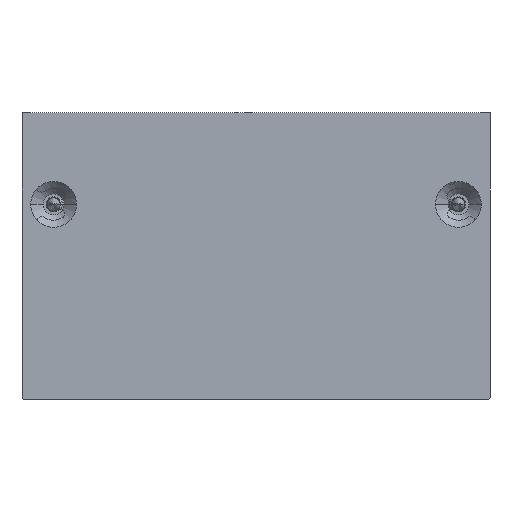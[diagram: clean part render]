
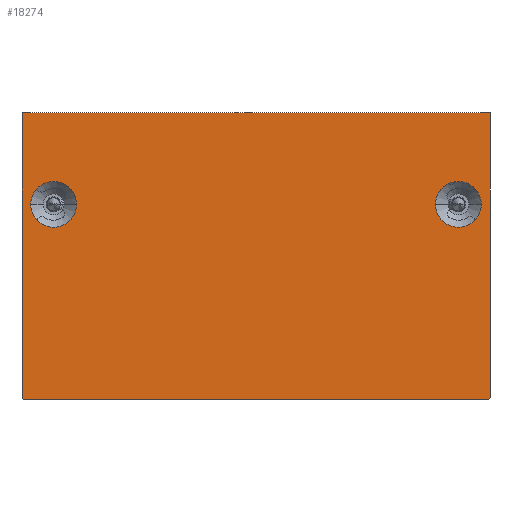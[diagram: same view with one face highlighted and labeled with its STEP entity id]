
A CAD part, front view. The second image highlights one B-rep face of the part: STEP entity #18274.
In plain terms, the highlighted planar face has unit normal (0, -1, 0).
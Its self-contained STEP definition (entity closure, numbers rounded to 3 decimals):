
#412 = ORIENTED_EDGE ( 'NONE', *, *, #14652, .T. ) ;
#533 = CIRCLE ( 'NONE', #6109, 2.75 ) ;
#747 = CARTESIAN_POINT ( 'NONE',  ( 212.149, -212.349, 34.4 ) ) ;
#848 = DIRECTION ( 'NONE',  ( 0., -1., 0. ) ) ;
#914 = FACE_BOUND ( 'NONE', #1367, .T. ) ;
#915 = EDGE_LOOP ( 'NONE', ( #8111, #1026 ) ) ;
#1026 = ORIENTED_EDGE ( 'NONE', *, *, #19201, .T. ) ;
#1199 = CARTESIAN_POINT ( 'NONE',  ( 213.198, -212.349, 23.4 ) ) ;
#1367 = EDGE_LOOP ( 'NONE', ( #20089, #19841 ) ) ;
#1636 = LINE ( 'NONE', #22933, #21381 ) ;
#1826 = CARTESIAN_POINT ( 'NONE',  ( 268.363, -212.349, 34.4 ) ) ;
#1956 = EDGE_CURVE ( 'NONE', #6447, #9885, #15163, .T. ) ;
#2032 = DIRECTION ( 'NONE',  ( 0., 0., 1. ) ) ;
#2135 = EDGE_CURVE ( 'NONE', #12756, #16285, #2504, .T. ) ;
#2291 = CARTESIAN_POINT ( 'NONE',  ( 267.315, -212.349, 23.4 ) ) ;
#2462 = DIRECTION ( 'NONE',  ( -1., 0., 0. ) ) ;
#2504 = CIRCLE ( 'NONE', #15917, 0.2 ) ;
#2564 = DIRECTION ( 'NONE',  ( 0., 1., 0. ) ) ;
#2654 = FACE_OUTER_BOUND ( 'NONE', #21247, .T. ) ;
#2755 = DIRECTION ( 'NONE',  ( 1., 0., 0. ) ) ;
#2794 = DIRECTION ( 'NONE',  ( 0., 0., -1. ) ) ;
#2952 = CIRCLE ( 'NONE', #17477, 2.75 ) ;
#3269 = DIRECTION ( 'NONE',  ( 1., 0., 0. ) ) ;
#3643 = ORIENTED_EDGE ( 'NONE', *, *, #19905, .T. ) ;
#3660 = VERTEX_POINT ( 'NONE', #18474 ) ;
#4226 = DIRECTION ( 'NONE',  ( 0., 1., 0. ) ) ;
#4402 = PLANE ( 'NONE',  #5358 ) ;
#4464 = VERTEX_POINT ( 'NONE', #747 ) ;
#4535 = CARTESIAN_POINT ( 'NONE',  ( 215.948, -212.349, 23.4 ) ) ;
#4853 = DIRECTION ( 'NONE',  ( 0., -1., 0. ) ) ;
#4996 = CARTESIAN_POINT ( 'NONE',  ( 268.163, -212.349, 0. ) ) ;
#5358 = AXIS2_PLACEMENT_3D ( 'NONE', #11760, #4853, #2755 ) ;
#6109 = AXIS2_PLACEMENT_3D ( 'NONE', #16563, #2564, #22122 ) ;
#6447 = VERTEX_POINT ( 'NONE', #1199 ) ;
#6465 = CIRCLE ( 'NONE', #18347, 2.75 ) ;
#6642 = EDGE_CURVE ( 'NONE', #9885, #6447, #2952, .T. ) ;
#6786 = DIRECTION ( 'NONE',  ( 0., 0., -1. ) ) ;
#6990 = DIRECTION ( 'NONE',  ( -1., 0., 0. ) ) ;
#7457 = CARTESIAN_POINT ( 'NONE',  ( 268.363, -212.349, 34.4 ) ) ;
#7952 = CARTESIAN_POINT ( 'NONE',  ( 215.948, -212.349, 23.4 ) ) ;
#8111 = ORIENTED_EDGE ( 'NONE', *, *, #13799, .T. ) ;
#9409 = ORIENTED_EDGE ( 'NONE', *, *, #10628, .T. ) ;
#9484 = CARTESIAN_POINT ( 'NONE',  ( 212.349, -212.349, 0. ) ) ;
#9834 = VECTOR ( 'NONE', #2032, 1000. ) ;
#9885 = VERTEX_POINT ( 'NONE', #16972 ) ;
#10345 = CARTESIAN_POINT ( 'NONE',  ( 261.815, -212.349, 23.4 ) ) ;
#10423 = VERTEX_POINT ( 'NONE', #9484 ) ;
#10628 = EDGE_CURVE ( 'NONE', #16285, #13618, #14620, .T. ) ;
#11109 = CARTESIAN_POINT ( 'NONE',  ( 268.163, -212.349, 0.2 ) ) ;
#11206 = EDGE_CURVE ( 'NONE', #10423, #12756, #19228, .T. ) ;
#11225 = DIRECTION ( 'NONE',  ( 0., 1., 0. ) ) ;
#11264 = ORIENTED_EDGE ( 'NONE', *, *, #11206, .T. ) ;
#11760 = CARTESIAN_POINT ( 'NONE',  ( 240.256, -212.349, 17.231 ) ) ;
#12687 = VERTEX_POINT ( 'NONE', #10345 ) ;
#12756 = VERTEX_POINT ( 'NONE', #14531 ) ;
#13427 = CARTESIAN_POINT ( 'NONE',  ( 268.363, -212.349, 0.2 ) ) ;
#13618 = VERTEX_POINT ( 'NONE', #7457 ) ;
#13799 = EDGE_CURVE ( 'NONE', #15667, #12687, #6465, .T. ) ;
#14109 = CARTESIAN_POINT ( 'NONE',  ( 212.349, -212.349, 0.2 ) ) ;
#14468 = ORIENTED_EDGE ( 'NONE', *, *, #2135, .T. ) ;
#14531 = CARTESIAN_POINT ( 'NONE',  ( 268.163, -212.349, 0. ) ) ;
#14620 = LINE ( 'NONE', #1826, #9834 ) ;
#14652 = EDGE_CURVE ( 'NONE', #4464, #3660, #22475, .T. ) ;
#14697 = DIRECTION ( 'NONE',  ( 1., 0., 0. ) ) ;
#15037 = DIRECTION ( 'NONE',  ( 0., 1., 0. ) ) ;
#15163 = CIRCLE ( 'NONE', #19621, 2.75 ) ;
#15667 = VERTEX_POINT ( 'NONE', #2291 ) ;
#15769 = VECTOR ( 'NONE', #2794, 1000. ) ;
#15917 = AXIS2_PLACEMENT_3D ( 'NONE', #11109, #848, #14697 ) ;
#16285 = VERTEX_POINT ( 'NONE', #13427 ) ;
#16563 = CARTESIAN_POINT ( 'NONE',  ( 264.565, -212.349, 23.4 ) ) ;
#16575 = CIRCLE ( 'NONE', #17684, 0.2 ) ;
#16972 = CARTESIAN_POINT ( 'NONE',  ( 218.698, -212.349, 23.4 ) ) ;
#17196 = ORIENTED_EDGE ( 'NONE', *, *, #19005, .T. ) ;
#17477 = AXIS2_PLACEMENT_3D ( 'NONE', #4535, #15037, #20610 ) ;
#17684 = AXIS2_PLACEMENT_3D ( 'NONE', #14109, #19236, #6786 ) ;
#18274 = ADVANCED_FACE ( 'NONE', ( #19062, #914, #2654 ), #4402, .T. ) ;
#18347 = AXIS2_PLACEMENT_3D ( 'NONE', #20175, #4226, #18445 ) ;
#18409 = VECTOR ( 'NONE', #3269, 1000. ) ;
#18445 = DIRECTION ( 'NONE',  ( -1., 0., 0. ) ) ;
#18474 = CARTESIAN_POINT ( 'NONE',  ( 212.149, -212.349, 0.2 ) ) ;
#18757 = CARTESIAN_POINT ( 'NONE',  ( 212.149, -212.349, 0.2 ) ) ;
#19005 = EDGE_CURVE ( 'NONE', #3660, #10423, #16575, .T. ) ;
#19062 = FACE_BOUND ( 'NONE', #915, .T. ) ;
#19201 = EDGE_CURVE ( 'NONE', #12687, #15667, #533, .T. ) ;
#19228 = LINE ( 'NONE', #4996, #18409 ) ;
#19236 = DIRECTION ( 'NONE',  ( 0., -1., 0. ) ) ;
#19621 = AXIS2_PLACEMENT_3D ( 'NONE', #7952, #11225, #2462 ) ;
#19841 = ORIENTED_EDGE ( 'NONE', *, *, #1956, .T. ) ;
#19905 = EDGE_CURVE ( 'NONE', #13618, #4464, #1636, .T. ) ;
#20089 = ORIENTED_EDGE ( 'NONE', *, *, #6642, .T. ) ;
#20175 = CARTESIAN_POINT ( 'NONE',  ( 264.565, -212.349, 23.4 ) ) ;
#20610 = DIRECTION ( 'NONE',  ( -1., 0., 0. ) ) ;
#21247 = EDGE_LOOP ( 'NONE', ( #3643, #412, #17196, #11264, #14468, #9409 ) ) ;
#21381 = VECTOR ( 'NONE', #6990, 1000. ) ;
#22122 = DIRECTION ( 'NONE',  ( -1., 0., 0. ) ) ;
#22475 = LINE ( 'NONE', #18757, #15769 ) ;
#22933 = CARTESIAN_POINT ( 'NONE',  ( 212.149, -212.349, 34.4 ) ) ;
